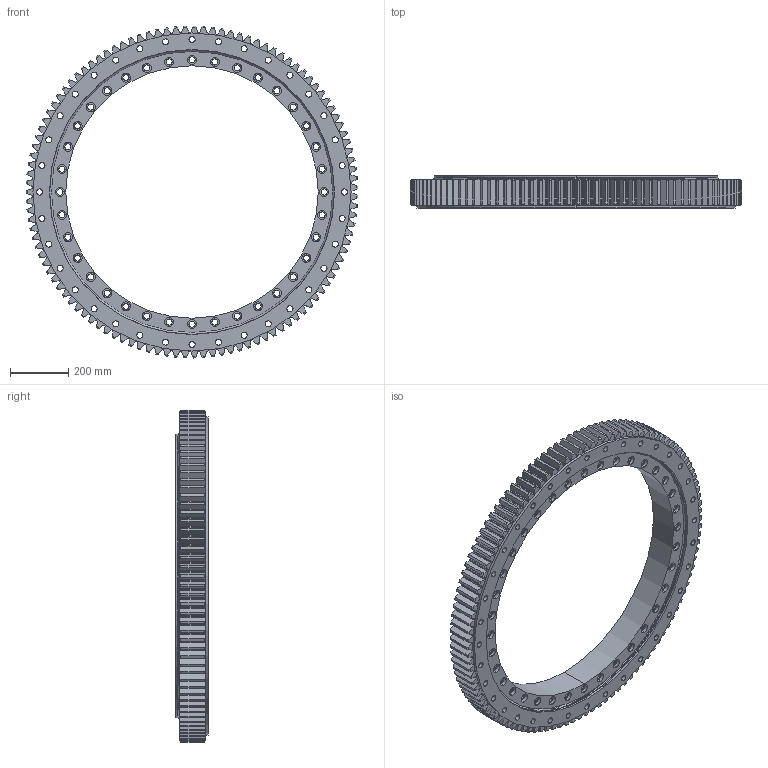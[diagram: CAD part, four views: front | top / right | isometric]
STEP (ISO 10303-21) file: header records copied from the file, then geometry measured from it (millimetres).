
FILE_DESCRIPTION (( 'STEP AP203' ), '1' );
FILE_NAME ('B2225-2-1144BB.STEP', '2022-07-06T14:51:28', ( '' ), ( '' ), 'SwSTEP 2.0', 'SolidWorks 2020', '' );
FILE_SCHEMA (( 'CONFIG_CONTROL_DESIGN' ));
Length unit declared in the file: millimetre
Products named in the file (1): B2225-2-1144BB
Bounding box: 1143.87 x 111 x 1143.97 mm (x, y, z)
Volume: 35287179.9 mm3; surface area: 3002123.5 mm2
Topology: 4 solids, 4 shells, 1178 faces, 3275 edges, 2182 vertices
Faces by surface type: cylinder 419, plane 307, cone 230, bspline 222
Entity records: 39222 total; most frequent: CARTESIAN_POINT 9966, ORIENTED_EDGE 6550, DIRECTION 5373, EDGE_CURVE 3275, VERTEX_POINT 2182, AXIS2_PLACEMENT_3D 2029, EDGE_LOOP 1407, VECTOR 1315
